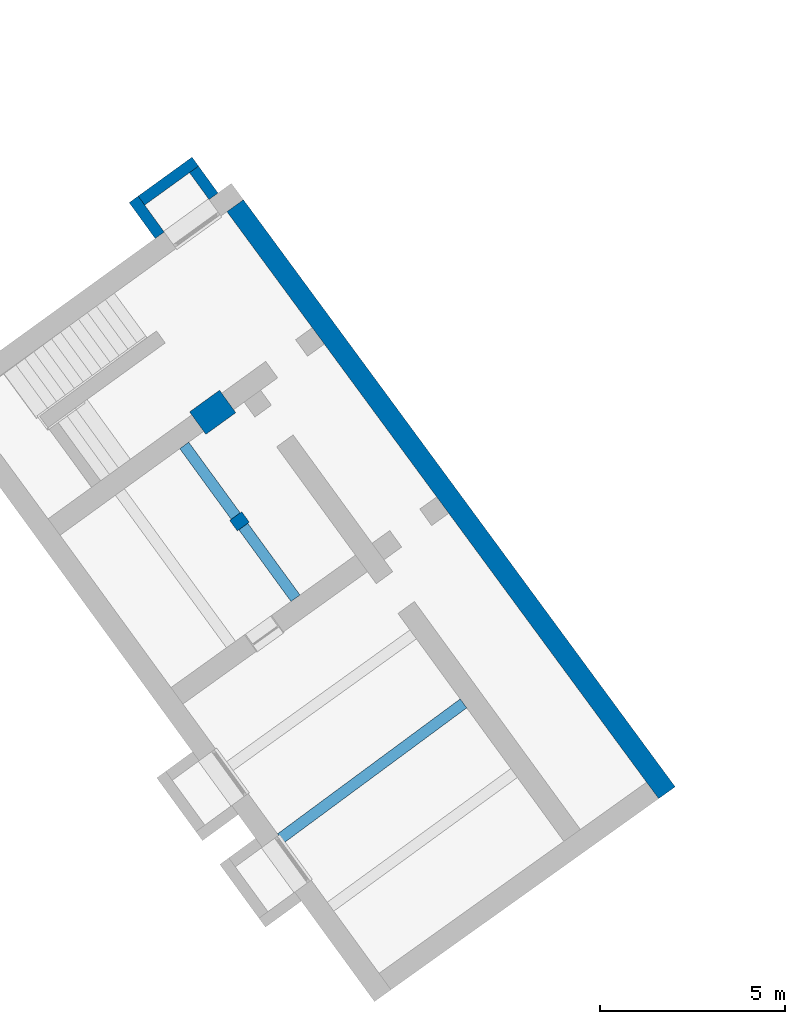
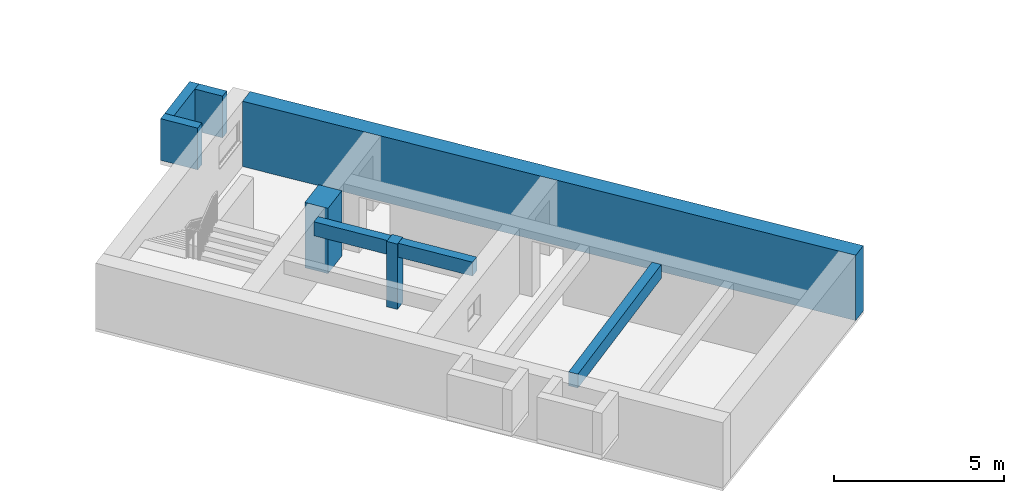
# One storey, part 76 of 112: 8 walls.
"""IFC2X3 building model written with IfcOpenShell, lengths in millimetres."""

from ifc_helpers import new_model, entity, si_unit, converted_unit, derived_unit, direction, frame, frame_2d, origin, place, context, subcontext, project, spatial, polyline, rectangle, outline, extrude, material, layer, layer_set, layer_usage, type_object, element, save


model = new_model("IFC2X3")

# Units and contexts
model_context = context("Model", 3, precision=0.01, world=origin(), true_north=direction((6.123031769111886e-17, 1.0)))
body_context = subcontext(model_context, "Body", "Model", "MODEL_VIEW")
ifc_project = project(units=[si_unit("LENGTHUNIT", "METRE", prefix="MILLI"), si_unit("AREAUNIT", "SQUARE_METRE"), si_unit("VOLUMEUNIT", "CUBIC_METRE"), converted_unit("PLANEANGLEUNIT", "DEGREE", entity("IfcRatioMeasure", 0.017453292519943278), si_unit("PLANEANGLEUNIT", "RADIAN"), dimensions=[0, 0, 0, 0, 0, 0, 0]), si_unit("MASSUNIT", "GRAM", prefix="KILO"), derived_unit("MASSDENSITYUNIT", [(si_unit("MASSUNIT", "GRAM", prefix="KILO"), 1), (si_unit("LENGTHUNIT", "METRE"), -3)]), derived_unit("MOMENTOFINERTIAUNIT", [(si_unit("LENGTHUNIT", "METRE"), 4)]), si_unit("TIMEUNIT", "SECOND"), si_unit("FREQUENCYUNIT", "HERTZ"), si_unit("THERMODYNAMICTEMPERATUREUNIT", "DEGREE_CELSIUS"), derived_unit("THERMALTRANSMITTANCEUNIT", [(si_unit("MASSUNIT", "GRAM", prefix="KILO"), 1), (si_unit("THERMODYNAMICTEMPERATUREUNIT", "KELVIN"), -1), (si_unit("TIMEUNIT", "SECOND"), -3)]), derived_unit("THERMALCONDUCTANCEUNIT", [(si_unit("MASSUNIT", "GRAM", prefix="KILO"), 1), (si_unit("LENGTHUNIT", "METRE"), 1), (si_unit("THERMODYNAMICTEMPERATUREUNIT", "KELVIN"), -1), (si_unit("TIMEUNIT", "SECOND"), -3)]), derived_unit("VOLUMETRICFLOWRATEUNIT", [(si_unit("LENGTHUNIT", "METRE"), 3), (si_unit("TIMEUNIT", "SECOND"), -1)]), derived_unit("MASSFLOWRATEUNIT", [(si_unit("MASSUNIT", "GRAM", prefix="KILO"), 1), (si_unit("TIMEUNIT", "SECOND"), -1)]), derived_unit("ROTATIONALFREQUENCYUNIT", [(si_unit("TIMEUNIT", "SECOND"), -1)]), si_unit("ELECTRICCURRENTUNIT", "AMPERE"), si_unit("ELECTRICVOLTAGEUNIT", "VOLT"), si_unit("POWERUNIT", "WATT"), converted_unit("FORCEUNIT", "KIP", entity("IfcRatioMeasure", 2.088543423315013e-05), si_unit("FORCEUNIT", "NEWTON"), dimensions=[1, 1, -2, 0, 0, 0, 0]), si_unit("ILLUMINANCEUNIT", "LUX"), si_unit("LUMINOUSFLUXUNIT", "LUMEN"), si_unit("LUMINOUSINTENSITYUNIT", "CANDELA"), derived_unit("USERDEFINED", [(si_unit("MASSUNIT", "GRAM", prefix="KILO"), -1), (si_unit("LENGTHUNIT", "METRE"), -2), (si_unit("TIMEUNIT", "SECOND"), 3), (si_unit("LUMINOUSFLUXUNIT", "LUMEN"), 1)]), derived_unit("USERDEFINED", [(si_unit("MASSUNIT", "GRAM", prefix="KILO"), 1), (si_unit("LENGTHUNIT", "METRE"), 3), (si_unit("TIMEUNIT", "SECOND"), -3), (si_unit("ELECTRICCURRENTUNIT", "AMPERE"), -2)]), derived_unit("USERDEFINED", [(si_unit("LENGTHUNIT", "METRE"), 2), (si_unit("TIMEUNIT", "SECOND"), -2)]), derived_unit("SOUNDPOWERUNIT", [(si_unit("MASSUNIT", "GRAM", prefix="KILO"), 1), (si_unit("LENGTHUNIT", "METRE"), 2), (si_unit("TIMEUNIT", "SECOND"), -3)]), derived_unit("SOUNDPRESSUREUNIT", [(si_unit("MASSUNIT", "GRAM", prefix="KILO"), 1), (si_unit("LENGTHUNIT", "METRE"), -1), (si_unit("TIMEUNIT", "SECOND"), -2)]), derived_unit("LINEARVELOCITYUNIT", [(si_unit("LENGTHUNIT", "METRE"), 1), (si_unit("TIMEUNIT", "SECOND"), -1)]), si_unit("PRESSUREUNIT", "PASCAL"), derived_unit("USERDEFINED", [(si_unit("LENGTHUNIT", "METRE"), -2), (si_unit("MASSUNIT", "GRAM", prefix="KILO"), 1), (si_unit("TIMEUNIT", "SECOND"), -2)]), derived_unit("LINEARFORCEUNIT", [(si_unit("MASSUNIT", "GRAM", prefix="KILO"), 1), (si_unit("LENGTHUNIT", "METRE"), 1), (si_unit("TIMEUNIT", "SECOND"), -2), (si_unit("LENGTHUNIT", "METRE"), -1)]), derived_unit("PLANARFORCEUNIT", [(si_unit("MASSUNIT", "GRAM", prefix="KILO"), 1), (si_unit("LENGTHUNIT", "METRE"), 1), (si_unit("TIMEUNIT", "SECOND"), -2), (si_unit("LENGTHUNIT", "METRE"), -2)]), derived_unit("SPECIFICHEATCAPACITYUNIT", [(si_unit("LENGTHUNIT", "METRE"), 2), (si_unit("TIMEUNIT", "SECOND"), -2), (si_unit("THERMODYNAMICTEMPERATUREUNIT", "KELVIN"), -1)]), derived_unit("VAPORPERMEABILITYUNIT", [(si_unit("TIMEUNIT", "SECOND"), 1), (si_unit("LENGTHUNIT", "METRE"), -1)]), derived_unit("DYNAMICVISCOSITYUNIT", [(si_unit("MASSUNIT", "GRAM", prefix="KILO"), 1), (si_unit("LENGTHUNIT", "METRE"), -1), (si_unit("TIMEUNIT", "SECOND"), -1)]), derived_unit("THERMALEXPANSIONCOEFFICIENTUNIT", [(si_unit("THERMODYNAMICTEMPERATUREUNIT", "KELVIN"), -1)])], contexts=[model_context])

# Site, building, storey
site_placement = place(None, frame((0.0, 0.0, 0.0), z_axis=(0.0, 0.0, 1.0), x_axis=(0.8191520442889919, 0.5735764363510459, 0.0)))
site = spatial("IfcSite", under=ifc_project, at=site_placement, Name="Default", CompositionType="ELEMENT")
building_placement = place(site_placement, origin())
building = spatial("IfcBuilding", under=site, at=building_placement, CompositionType="ELEMENT")
storey_placement = place(building_placement, frame((0.0, 0.0, -3600.0)))
storey = spatial("IfcBuildingStorey", under=building, at=storey_placement, Name="0.UG -3.60", CompositionType="ELEMENT", Elevation=-3600.0000000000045)

# Walls
ifc_material = material(Name="Analytical Wall Surface_CJC")
ifc_layer_1 = layer(ifc_material, 300.0)
ifc_layer_set_1 = layer_set([ifc_layer_1], Name="Basic Wall:Wand_Innen_30")
ifc_layer_usage_1 = layer_usage(ifc_layer_set_1, "AXIS2", "NEGATIVE", 150.0)
wall_type_1 = type_object("IfcWallType", Name="Basic Wall:Wand_Innen_30", PredefinedType="STANDARD", material=ifc_layer_set_1)
wall_1_placement = place(storey_placement, frame((-184713.35007543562, 183078.49259118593, 1800.0), z_axis=(0.0, 0.0, 1.0), x_axis=(-0.9996783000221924, -0.02536328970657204, 0.0)))
element("IfcWallStandardCase", 1, at=wall_1_placement, inside=storey, type_object=wall_type_1, material=ifc_layer_usage_1, Name="Basic Wall:Wand_Innen_30", ObjectType="Basic Wall:Wand_Innen_30", context=body_context, shape_type="SweptSolid", body=[
    extrude(outline(polyline([(6150.108092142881, -150.0), (6152.155656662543, 150.0), (2.0497558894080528, 150.0), (0.0, -150.0), (6150.108092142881, -150.0)])), origin(), (0.0, 0.0, 1.0), 500.00000000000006),
])
wall_2_placement = place(storey_placement, frame((-186806.29228732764, 188018.88033767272, 1800.0), z_axis=(0.0, 0.0, 1.0), x_axis=(-0.018532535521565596, 0.999828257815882, 0.0)))
element("IfcWallStandardCase", 2, at=wall_2_placement, inside=storey, type_object=wall_type_1, material=ifc_layer_usage_1, Name="Basic Wall:Wand_Innen_30", ObjectType="Basic Wall:Wand_Innen_30", context=body_context, shape_type="SweptSolid", body=[
    extrude(outline(polyline([(5119.092415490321, -150.0), (5120.016581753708, 150.0), (2.0961074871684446, 150.0), (0.0, -150.0), (5119.092415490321, -150.0)])), origin(), (0.0, 0.0, 1.0), 500.00000000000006),
])
ifc_layer_2 = layer(ifc_material, 400.0)
ifc_layer_set_2 = layer_set([ifc_layer_2], Name="Basic Wall:Wand_Innen_40")
ifc_layer_usage_2 = layer_usage(ifc_layer_set_2, "AXIS2", "NEGATIVE", 200.0)
wall_type_2 = type_object("IfcWallType", Name="Basic Wall:Wand_Innen_40", PredefinedType="STANDARD", material=ifc_layer_set_2)
wall_3_placement = place(storey_placement, frame((-186850.81677879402, 190420.97176662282, -50.0), z_axis=(0.0, 0.0, 1.0), x_axis=(-0.018532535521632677, 0.9998282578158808, 0.0)))
element("IfcWallStandardCase", 3, at=wall_3_placement, inside=storey, type_object=wall_type_2, material=ifc_layer_usage_2, Name="Basic Wall:Wand_Innen_40", ObjectType="Basic Wall:Wand_Innen_40", context=body_context, shape_type="SweptSolid", body=[
    extrude(rectangle(XDim=350.0085431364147, YDim=400.0000000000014, at=frame_2d((175.00427156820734, -1.1368683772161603e-13), x_axis=(-1.0, 0.0))), origin(), (0.0, 0.0, 1.0), 2350.0000000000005),
])
ifc_layer_3 = layer(ifc_material, 300.0)
ifc_layer_set_3 = layer_set([ifc_layer_3], Name="Basic Wall:Wand_Aussen_30")
ifc_layer_usage_3 = layer_usage(ifc_layer_set_3, "AXIS2", "NEGATIVE", 150.0)
wall_type_3 = type_object("IfcWallType", Name="Basic Wall:Wand_Aussen_30", PredefinedType="STANDARD", material=ifc_layer_set_3)
wall_4_placement = place(storey_placement, frame((-184182.1161484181, 198180.17367937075, 950.0), z_axis=(0.0, 0.0, 1.0), x_axis=(-0.01545243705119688, 0.999880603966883, 0.0)))
element("IfcWallStandardCase", 4, at=wall_4_placement, inside=storey, type_object=wall_type_3, material=ifc_layer_usage_3, Name="Basic Wall:Wand_Aussen_30", ObjectType="Basic Wall:Wand_Aussen_30", context=body_context, shape_type="SweptSolid", body=[
    extrude(rectangle(XDim=1200.0000000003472, YDim=300.0, at=frame_2d((600.0000000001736, 1.7337242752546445e-12), x_axis=(-1.0, 0.0))), origin(), (0.0, 0.0, 1.0), 1500.0),
])
wall_5_placement = place(storey_placement, frame((-184048.35911672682, 199232.36617909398, 950.0), z_axis=(0.0, 0.0, 1.0), x_axis=(0.9998806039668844, 0.015452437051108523, 0.0)))
element("IfcWallStandardCase", 5, at=wall_5_placement, inside=storey, type_object=wall_type_3, material=ifc_layer_usage_3, Name="Basic Wall:Wand_Aussen_30", ObjectType="Basic Wall:Wand_Aussen_30", context=body_context, shape_type="SweptSolid", body=[
    extrude(rectangle(XDim=1799.9999999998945, YDim=300.00000000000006, at=frame_2d((899.9999999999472, 9.00968188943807e-12), x_axis=(-1.0, 0.0))), origin(), (0.0, 0.0, 1.0), 1500.0),
])
wall_6_placement = place(storey_placement, frame((-182396.23825462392, 199107.88060963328, 950.0), z_axis=(0.0, 0.0, 1.0), x_axis=(0.015452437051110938, -0.9998806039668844, 0.0)))
element("IfcWallStandardCase", 6, at=wall_6_placement, inside=storey, type_object=wall_type_3, material=ifc_layer_usage_3, Name="Basic Wall:Wand_Aussen_30", ObjectType="Basic Wall:Wand_Aussen_30", context=body_context, shape_type="SweptSolid", body=[
    extrude(rectangle(XDim=900.0000000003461, YDim=300.0, at=frame_2d((450.00000000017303, 8.995471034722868e-12), x_axis=(-1.0, 0.0))), origin(), (0.0, 0.0, 1.0), 1500.0),
])
ifc_layer_4 = layer(ifc_material, 550.0)
ifc_layer_set_4 = layer_set([ifc_layer_4], Name="Basic Wall:Wand_Aussen_55")
ifc_layer_usage_4 = layer_usage(ifc_layer_set_4, "AXIS2", "NEGATIVE", 275.0)
wall_type_4 = type_object("IfcWallType", Name="Basic Wall:Wand_Aussen_55", PredefinedType="STANDARD", material=ifc_layer_set_4)
wall_7_placement = place(storey_placement, frame((-182048.16163790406, 197665.23881185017, -50.0), z_axis=(0.0, 0.0, 1.0), x_axis=(0.023275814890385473, -0.9997290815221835, 0.0)))
element("IfcWallStandardCase", 7, at=wall_7_placement, inside=storey, type_object=wall_type_4, material=ifc_layer_usage_4, Name="Basic Wall:Wand_Aussen_55", ObjectType="Basic Wall:Wand_Aussen_55", context=body_context, shape_type="SweptSolid", body=[
    extrude(outline(polyline([(19728.343498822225, -275.0), (19736.005061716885, 275.0), (4.303763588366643, 275.0), (0.0, -275.0), (3900.119398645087, -275.0), (4450.136236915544, -275.0), (9587.161660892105, -275.0), (10137.199509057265, -275.0), (19178.29013818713, -275.0), (19728.343498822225, -275.0)])), origin(), (0.0, 0.0, 1.0), 2350.0000000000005),
])
ifc_layer_5 = layer(ifc_material, 750.0)
ifc_layer_set_5 = layer_set([ifc_layer_5], Name="Basic Wall:Wand_Innen_75")
ifc_layer_usage_5 = layer_usage(ifc_layer_set_5, "AXIS2", "NEGATIVE", 375.0)
wall_type_5 = type_object("IfcWallType", Name="Basic Wall:Wand_Innen_75", PredefinedType="STANDARD", material=ifc_layer_set_5)
wall_8_placement = place(storey_placement, frame((-185255.33792980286, 193438.02359344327, -50.0), z_axis=(0.0, 0.0, 1.0), x_axis=(-0.9998806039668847, -0.015452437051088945, 0.0)))
element("IfcWallStandardCase", 8, at=wall_8_placement, inside=storey, type_object=wall_type_5, material=ifc_layer_usage_5, Name="Basic Wall:Wand_Innen_75", ObjectType="Basic Wall:Wand_Innen_75", context=body_context, shape_type="SweptSolid", body=[
    extrude(rectangle(XDim=1000.0047674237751, YDim=750.0000000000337, at=frame_2d((500.00238371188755, 5.684341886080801e-13), x_axis=(-1.0, 0.0))), origin(), (0.0, 0.0, 1.0), 2350.0000000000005),
])

save(model, "model.ifc")
